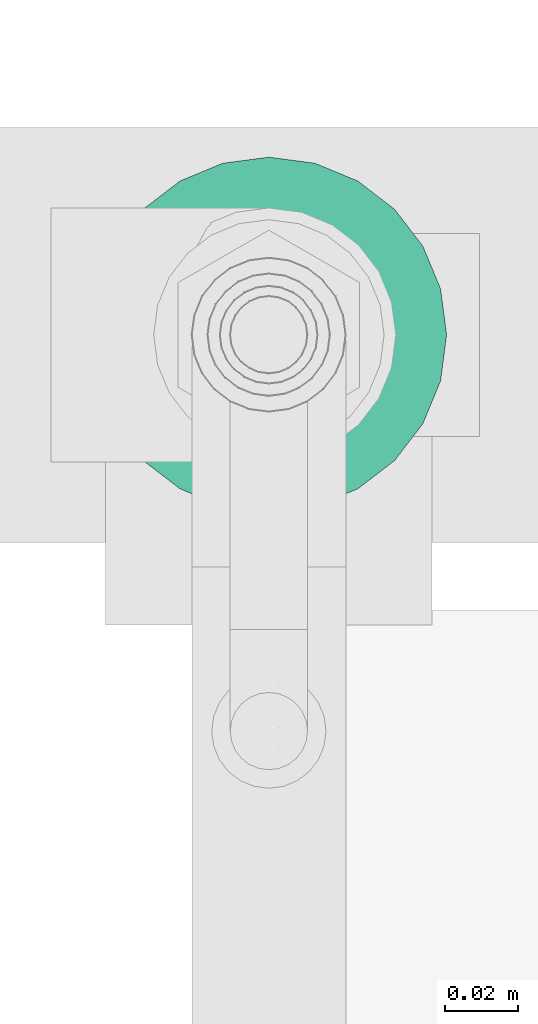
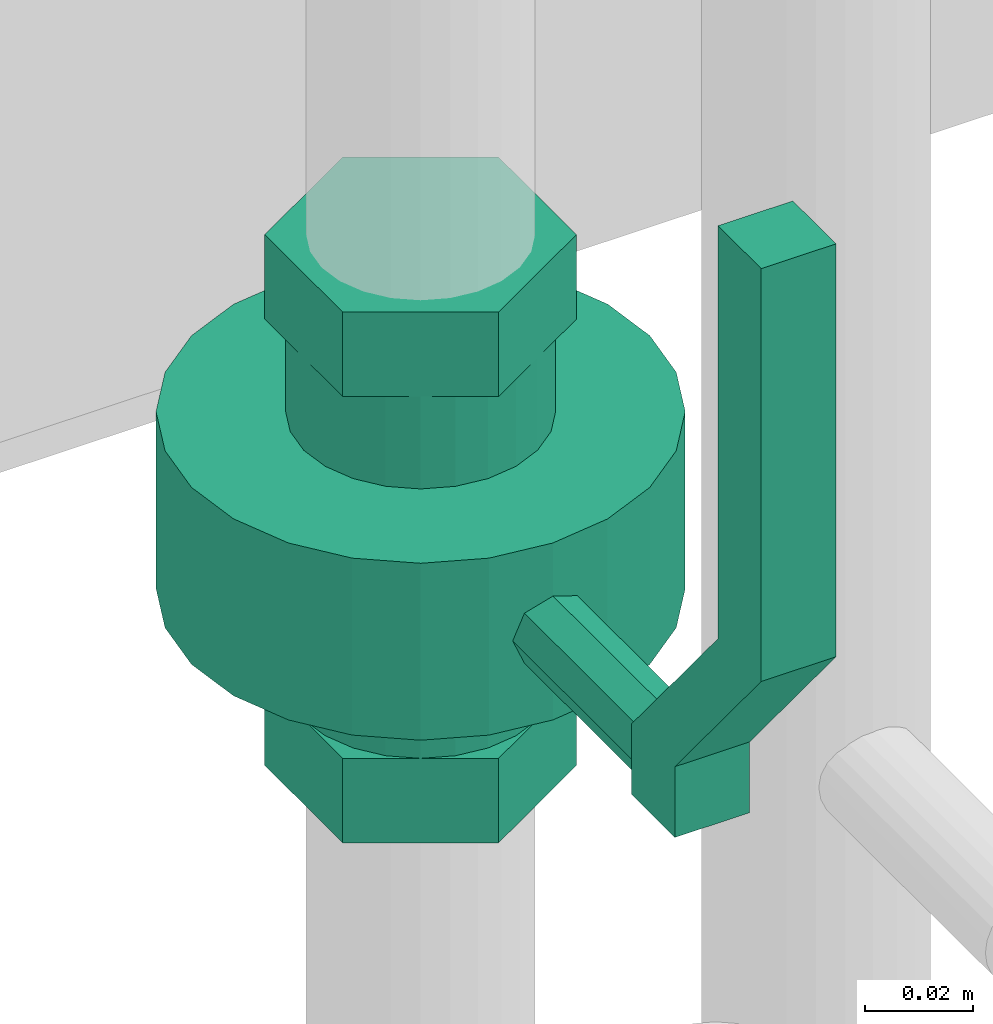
# One storey, part 265 of 374: 1 flow controller.
"""IFC2X3 building model written with IfcOpenShell, lengths in metres."""

from ifc_helpers import new_model, si_unit, direction, origin, place, context, subcontext, project, spatial, open_shell, surface_model, source, transform, mapped, element, save


model = new_model("IFC2X3")

# Units and contexts
model_context = context("Model", 3, precision=1e-05, world=origin(), true_north=direction((-0.4480736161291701, 0.8939966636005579)))
body_context = subcontext(model_context, "Body", "Model", "MODEL_VIEW")
ifc_project = project(units=[si_unit("LENGTHUNIT", "METRE"), si_unit("AREAUNIT", "SQUARE_METRE"), si_unit("VOLUMEUNIT", "CUBIC_METRE"), si_unit("PLANEANGLEUNIT", "RADIAN"), si_unit("THERMODYNAMICTEMPERATUREUNIT", "KELVIN"), si_unit("MASSUNIT", "GRAM", prefix="KILO"), si_unit("TIMEUNIT", "SECOND")], contexts=[model_context])

# Site, building, storey
site_placement = place(None, origin())
site = spatial("IfcSite", under=ifc_project, at=site_placement, Name="Site 1", CompositionType="ELEMENT")
building_placement = place(site_placement, origin())
building = spatial("IfcBuilding", under=site, at=building_placement, Name="Undefined", CompositionType="ELEMENT")
storey_placement = place(building_placement, origin())
storey = spatial("IfcBuildingStorey", under=building, at=storey_placement, Name="Rez de chauss\x8ee", CompositionType="ELEMENT", Elevation=0.0)

# Flow controller
shared_shape = source(origin(), body_context, "Body", "SurfaceModel", [
    surface_model("IfcFaceBasedSurfaceModel", [(0.0, 0.0, 0.0), (0.016000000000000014, 0.0, 0.0), (0.016000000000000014, 0.015999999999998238, 0.0), (0.0, 0.015999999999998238, 0.0), (0.016000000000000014, 0.0, 0.016000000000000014), (0.016000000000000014, 0.015999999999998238, 0.016000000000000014), (0.0, 0.0, 0.016000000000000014), (0.0, 0.015999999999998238, 0.016000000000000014), (-0.03866666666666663, 0.0, 0.04800000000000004), (-0.03866666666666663, 0.015999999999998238, 0.04800000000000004), (-0.1319999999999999, 0.0, 0.04800000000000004), (-0.1319999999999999, 0.015999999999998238, 0.04800000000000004), (-0.1319999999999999, 0.0, 0.03200000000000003), (-0.1319999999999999, 0.015999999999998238, 0.03200000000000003), (-0.03866666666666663, 0.0, 0.03200000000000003), (-0.03866666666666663, 0.015999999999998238, 0.03200000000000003), (0.06800000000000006, 0.03300000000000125, -0.10643375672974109), (0.06800000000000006, 0.03300000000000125, -0.07756624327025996), (0.0489, 0.03300000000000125, -0.07756624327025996), (0.0489, 0.03300000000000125, -0.10643375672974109), (0.06800000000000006, 0.007999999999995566, -0.12086751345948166), (0.0489, 0.007999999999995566, -0.12086751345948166), (0.06800000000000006, -0.017000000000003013, -0.10643375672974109), (0.0489, -0.017000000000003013, -0.10643375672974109), (0.06800000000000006, -0.017000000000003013, -0.07756624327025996), (0.0489, -0.017000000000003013, -0.07756624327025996), (0.06800000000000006, 0.007999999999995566, -0.06313248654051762), (0.0489, 0.007999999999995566, -0.06313248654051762), (0.0489, -0.017000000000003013, -0.09200000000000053), (0.0489, -0.016148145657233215, -0.08552952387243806), (0.028000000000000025, -0.016148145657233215, -0.08552952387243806), (0.028000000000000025, -0.017000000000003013, -0.09200000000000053), (0.0489, -0.0136506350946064, -0.07949999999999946), (0.028000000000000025, -0.0136506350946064, -0.07949999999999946), (0.0489, -0.009677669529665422, -0.07432233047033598), (0.028000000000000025, -0.009677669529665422, -0.07432233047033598), (0.0489, -0.0045000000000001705, -0.07034936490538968), (0.028000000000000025, -0.0045000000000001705, -0.07034936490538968), (0.0489, 0.0015295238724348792, -0.06785185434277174), (0.028000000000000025, 0.0015295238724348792, -0.06785185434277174), (0.0489, 0.007999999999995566, -0.06700000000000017), (0.028000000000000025, 0.007999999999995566, -0.06700000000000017), (0.0489, 0.014470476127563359, -0.06785185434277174), (0.028000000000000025, 0.014470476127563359, -0.06785185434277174), (0.0489, 0.02049999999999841, -0.07034936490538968), (0.028000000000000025, 0.02049999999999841, -0.07034936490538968), (0.0489, 0.02567766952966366, -0.07432233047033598), (0.028000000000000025, 0.02567766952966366, -0.07432233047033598), (0.0489, 0.029650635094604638, -0.07949999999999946), (0.028000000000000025, 0.029650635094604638, -0.07949999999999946), (0.0489, 0.03214814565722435, -0.08552952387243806), (0.028000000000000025, 0.03214814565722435, -0.08552952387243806), (0.0489, 0.03300000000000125, -0.09200000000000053), (0.028000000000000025, 0.03300000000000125, -0.09200000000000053), (0.0489, 0.03214814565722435, -0.09847047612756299), (0.028000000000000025, 0.03214814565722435, -0.09847047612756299), (0.0489, 0.029650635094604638, -0.10449999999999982), (0.028000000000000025, 0.029650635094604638, -0.10449999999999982), (0.0489, 0.02567766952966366, -0.10967766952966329), (0.028000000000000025, 0.02567766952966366, -0.10967766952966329), (0.0489, 0.02049999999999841, -0.11365063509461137), (0.028000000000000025, 0.02049999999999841, -0.11365063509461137), (0.0489, 0.014470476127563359, -0.11614814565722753), (0.028000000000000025, 0.014470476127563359, -0.11614814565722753), (0.0489, 0.007999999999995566, -0.1169999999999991), (0.028000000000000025, 0.007999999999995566, -0.1169999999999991), (0.0489, 0.0015295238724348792, -0.11614814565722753), (0.028000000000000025, 0.0015295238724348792, -0.11614814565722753), (0.0489, -0.0045000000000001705, -0.11365063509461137), (0.028000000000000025, -0.0045000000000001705, -0.11365063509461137), (0.0489, -0.009677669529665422, -0.10967766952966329), (0.028000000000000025, -0.009677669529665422, -0.10967766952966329), (0.0489, -0.0136506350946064, -0.10449999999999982), (0.028000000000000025, -0.0136506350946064, -0.10449999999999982), (0.0489, -0.016148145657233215, -0.09847047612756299), (0.028000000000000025, -0.016148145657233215, -0.09847047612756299), (0.028000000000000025, -0.04100000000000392, -0.09200000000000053), (0.028000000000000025, -0.03933036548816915, -0.07931786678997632), (-0.01200000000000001, -0.03933036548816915, -0.07931786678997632), (-0.01200000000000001, -0.04100000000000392, -0.09200000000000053), (0.028000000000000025, -0.03443524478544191, -0.067499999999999), (-0.01200000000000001, -0.03443524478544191, -0.067499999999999), (0.028000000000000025, -0.026648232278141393, -0.05735176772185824), (-0.01200000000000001, -0.026648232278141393, -0.05735176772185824), (0.028000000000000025, -0.016500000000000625, -0.049564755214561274), (-0.01200000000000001, -0.016500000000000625, -0.049564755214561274), (0.028000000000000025, -0.004682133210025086, -0.04466963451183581), (-0.01200000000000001, -0.004682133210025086, -0.04466963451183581), (0.028000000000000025, 0.007999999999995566, -0.04299999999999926), (-0.01200000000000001, 0.007999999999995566, -0.04299999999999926), (0.028000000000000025, 0.020682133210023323, -0.04466963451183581), (-0.01200000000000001, 0.020682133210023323, -0.04466963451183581), (0.028000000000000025, 0.03249999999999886, -0.049564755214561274), (-0.01200000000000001, 0.03249999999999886, -0.049564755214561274), (0.028000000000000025, 0.04264823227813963, -0.05735176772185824), (-0.01200000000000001, 0.04264823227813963, -0.05735176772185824), (0.028000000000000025, 0.05043524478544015, -0.067499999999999), (-0.01200000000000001, 0.05043524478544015, -0.067499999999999), (0.028000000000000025, 0.05533036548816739, -0.0793178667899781), (-0.01200000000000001, 0.05533036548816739, -0.0793178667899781), (0.028000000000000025, 0.05700000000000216, -0.09200000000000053), (-0.01200000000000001, 0.05700000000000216, -0.09200000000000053), (0.028000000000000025, 0.05533036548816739, -0.10468213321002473), (-0.01200000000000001, 0.05533036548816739, -0.10468213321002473), (0.028000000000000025, 0.05043524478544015, -0.11650000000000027), (-0.01200000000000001, 0.05043524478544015, -0.11650000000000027), (0.028000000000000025, 0.04264823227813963, -0.12664823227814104), (-0.01200000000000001, 0.04264823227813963, -0.12664823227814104), (0.028000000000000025, 0.03249999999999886, -0.134435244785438), (-0.01200000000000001, 0.03249999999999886, -0.134435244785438), (0.028000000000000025, 0.020682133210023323, -0.13933036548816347), (-0.01200000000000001, 0.020682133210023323, -0.13933036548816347), (0.028000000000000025, 0.007999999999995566, -0.14100000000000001), (-0.01200000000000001, 0.007999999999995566, -0.14100000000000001), (0.028000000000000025, -0.004682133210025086, -0.13933036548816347), (-0.01200000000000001, -0.004682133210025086, -0.13933036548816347), (0.028000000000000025, -0.016500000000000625, -0.134435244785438), (-0.01200000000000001, -0.016500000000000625, -0.134435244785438), (0.028000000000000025, -0.026648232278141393, -0.12664823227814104), (-0.01200000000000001, -0.026648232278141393, -0.12664823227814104), (0.028000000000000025, -0.03443524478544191, -0.11650000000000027), (-0.01200000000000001, -0.03443524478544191, -0.11650000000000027), (0.028000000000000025, -0.03933036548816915, -0.10468213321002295), (-0.01200000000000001, -0.03933036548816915, -0.10468213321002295), (0.028000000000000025, 0.007999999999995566, -0.09200000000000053), (-0.01200000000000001, 0.007999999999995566, -0.09200000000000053), (-0.01200000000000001, -0.017000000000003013, -0.09200000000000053), (-0.01200000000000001, -0.016148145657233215, -0.08552952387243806), (-0.03289999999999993, -0.016148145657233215, -0.08552952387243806), (-0.03289999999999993, -0.017000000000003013, -0.09200000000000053), (-0.01200000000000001, -0.0136506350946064, -0.07949999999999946), (-0.03289999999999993, -0.0136506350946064, -0.07949999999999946), (-0.01200000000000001, -0.009677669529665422, -0.07432233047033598), (-0.03289999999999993, -0.009677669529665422, -0.07432233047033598), (-0.01200000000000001, -0.0045000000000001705, -0.07034936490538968), (-0.03289999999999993, -0.0045000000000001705, -0.07034936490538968), (-0.01200000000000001, 0.0015295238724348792, -0.06785185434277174), (-0.03289999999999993, 0.0015295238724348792, -0.06785185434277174), (-0.01200000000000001, 0.007999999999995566, -0.06700000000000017), (-0.03289999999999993, 0.007999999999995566, -0.06700000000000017), (-0.01200000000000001, 0.014470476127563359, -0.06785185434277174), (-0.03289999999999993, 0.014470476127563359, -0.06785185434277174), (-0.01200000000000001, 0.02049999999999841, -0.07034936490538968), (-0.03289999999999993, 0.02049999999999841, -0.07034936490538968), (-0.01200000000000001, 0.02567766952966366, -0.07432233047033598), (-0.03289999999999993, 0.02567766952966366, -0.07432233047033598), (-0.01200000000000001, 0.029650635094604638, -0.07949999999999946), (-0.03289999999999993, 0.029650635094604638, -0.07949999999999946), (-0.01200000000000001, 0.03214814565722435, -0.08552952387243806), (-0.03289999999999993, 0.03214814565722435, -0.08552952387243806), (-0.01200000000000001, 0.03300000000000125, -0.09200000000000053), (-0.03289999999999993, 0.03300000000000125, -0.09200000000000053), (-0.01200000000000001, 0.03214814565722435, -0.09847047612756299), (-0.03289999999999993, 0.03214814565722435, -0.09847047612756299), (-0.01200000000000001, 0.029650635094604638, -0.10449999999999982), (-0.03289999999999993, 0.029650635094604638, -0.10449999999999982), (-0.01200000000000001, 0.02567766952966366, -0.10967766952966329), (-0.03289999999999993, 0.02567766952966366, -0.10967766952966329), (-0.01200000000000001, 0.02049999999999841, -0.11365063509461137), (-0.03289999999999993, 0.02049999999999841, -0.11365063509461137), (-0.01200000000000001, 0.014470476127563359, -0.11614814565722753), (-0.03289999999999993, 0.014470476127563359, -0.11614814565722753), (-0.01200000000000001, 0.007999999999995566, -0.1169999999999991), (-0.03289999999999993, 0.007999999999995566, -0.1169999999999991), (-0.01200000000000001, 0.0015295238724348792, -0.11614814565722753), (-0.03289999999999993, 0.0015295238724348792, -0.11614814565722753), (-0.01200000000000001, -0.0045000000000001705, -0.11365063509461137), (-0.03289999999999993, -0.0045000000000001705, -0.11365063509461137), (-0.01200000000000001, -0.009677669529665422, -0.10967766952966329), (-0.03289999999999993, -0.009677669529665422, -0.10967766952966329), (-0.01200000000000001, -0.0136506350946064, -0.10449999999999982), (-0.03289999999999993, -0.0136506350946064, -0.10449999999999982), (-0.01200000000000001, -0.016148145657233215, -0.09847047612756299), (-0.03289999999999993, -0.016148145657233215, -0.09847047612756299), (-0.03289999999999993, 0.03300000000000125, -0.10643375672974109), (-0.03289999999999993, 0.03300000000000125, -0.07756624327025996), (-0.051999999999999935, 0.03300000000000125, -0.07756624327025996), (-0.051999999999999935, 0.03300000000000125, -0.10643375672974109), (-0.03289999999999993, 0.007999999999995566, -0.12086751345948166), (-0.051999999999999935, 0.007999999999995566, -0.12086751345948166), (-0.03289999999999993, -0.017000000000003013, -0.10643375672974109), (-0.051999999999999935, -0.017000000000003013, -0.10643375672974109), (-0.03289999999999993, -0.017000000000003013, -0.07756624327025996), (-0.051999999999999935, -0.017000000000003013, -0.07756624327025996), (-0.03289999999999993, 0.007999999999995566, -0.06313248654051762), (-0.051999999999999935, 0.007999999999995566, -0.06313248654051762), (0.0, 0.007999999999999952, -0.09199999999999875), (0.002343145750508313, 0.0023431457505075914, -0.09199999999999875), (0.002343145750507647, 0.002343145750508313, 0.0), (0.0, 0.008, 0.0), (0.008000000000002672, 0.0, -0.09199999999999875), (0.008000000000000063, 0.0, 0.0), (0.01365685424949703, 0.0023431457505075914, -0.09199999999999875), (0.013656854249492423, 0.002343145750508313, 0.0), (0.016000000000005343, 0.007999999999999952, -0.09199999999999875), (0.016000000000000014, 0.008000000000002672, 0.0), (0.01365685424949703, 0.013656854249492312, -0.09199999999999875), (0.013656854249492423, 0.013656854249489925, 0.0), (0.008000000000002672, 0.01599999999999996, -0.09199999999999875), (0.008000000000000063, 0.015999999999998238, 0.0), (0.002343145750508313, 0.013656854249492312, -0.09199999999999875), (0.002343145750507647, 0.013656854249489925, 0.0)], [open_shell([[[0, 1, 2, 3]], [[1, 4, 5, 2]], [[4, 6, 7, 5]], [[6, 8, 9, 7]], [[8, 10, 11, 9]], [[10, 12, 13, 11]], [[12, 14, 15, 13]], [[14, 0, 3, 15]], [[3, 7, 2]], [[7, 3, 9]], [[15, 9, 3]], [[9, 15, 11]], [[13, 11, 15]], [[5, 2, 7]], [[1, 6, 0]], [[8, 0, 6]], [[0, 8, 14]], [[10, 14, 8]], [[14, 10, 12]], [[6, 1, 4]], [[16, 17, 18, 19]], [[20, 16, 19, 21]], [[22, 20, 21, 23]], [[24, 22, 23, 25]], [[26, 24, 25, 27]], [[17, 26, 27, 18]], [[17, 16, 20]], [[17, 20, 22]], [[17, 22, 24]], [[17, 24, 26]], [[18, 21, 19]], [[18, 23, 21]], [[18, 25, 23]], [[18, 27, 25]], [[28, 29, 30, 31]], [[29, 32, 33, 30]], [[32, 34, 35, 33]], [[34, 36, 37, 35]], [[36, 38, 39, 37]], [[38, 40, 41, 39]], [[40, 42, 43, 41]], [[42, 44, 45, 43]], [[44, 46, 47, 45]], [[46, 48, 49, 47]], [[48, 50, 51, 49]], [[50, 52, 53, 51]], [[52, 54, 55, 53]], [[54, 56, 57, 55]], [[56, 58, 59, 57]], [[58, 60, 61, 59]], [[60, 62, 63, 61]], [[62, 64, 65, 63]], [[64, 66, 67, 65]], [[66, 68, 69, 67]], [[68, 70, 71, 69]], [[70, 72, 73, 71]], [[72, 74, 75, 73]], [[74, 28, 31, 75]], [[76, 77, 78, 79]], [[77, 80, 81, 78]], [[80, 82, 83, 81]], [[82, 84, 85, 83]], [[84, 86, 87, 85]], [[86, 88, 89, 87]], [[88, 90, 91, 89]], [[90, 92, 93, 91]], [[92, 94, 95, 93]], [[94, 96, 97, 95]], [[96, 98, 99, 97]], [[98, 100, 101, 99]], [[100, 102, 103, 101]], [[102, 104, 105, 103]], [[104, 106, 107, 105]], [[106, 108, 109, 107]], [[108, 110, 111, 109]], [[110, 112, 113, 111]], [[112, 114, 115, 113]], [[114, 116, 117, 115]], [[116, 118, 119, 117]], [[118, 120, 121, 119]], [[120, 122, 123, 121]], [[122, 76, 79, 123]], [[124, 77, 76]], [[124, 80, 77]], [[124, 82, 80]], [[124, 84, 82]], [[124, 86, 84]], [[124, 88, 86]], [[124, 90, 88]], [[124, 92, 90]], [[124, 94, 92]], [[124, 96, 94]], [[124, 98, 96]], [[124, 100, 98]], [[124, 102, 100]], [[124, 104, 102]], [[124, 106, 104]], [[124, 108, 106]], [[124, 110, 108]], [[124, 112, 110]], [[124, 114, 112]], [[124, 116, 114]], [[124, 118, 116]], [[124, 120, 118]], [[124, 122, 120]], [[124, 76, 122]], [[125, 123, 79]], [[125, 121, 123]], [[125, 119, 121]], [[125, 117, 119]], [[125, 115, 117]], [[125, 113, 115]], [[125, 111, 113]], [[125, 109, 111]], [[125, 107, 109]], [[125, 105, 107]], [[125, 103, 105]], [[125, 101, 103]], [[125, 99, 101]], [[125, 97, 99]], [[125, 95, 97]], [[125, 93, 95]], [[125, 91, 93]], [[125, 89, 91]], [[125, 87, 89]], [[125, 85, 87]], [[125, 83, 85]], [[125, 81, 83]], [[125, 78, 81]], [[125, 79, 78]], [[126, 127, 128, 129]], [[127, 130, 131, 128]], [[130, 132, 133, 131]], [[132, 134, 135, 133]], [[134, 136, 137, 135]], [[136, 138, 139, 137]], [[138, 140, 141, 139]], [[140, 142, 143, 141]], [[142, 144, 145, 143]], [[144, 146, 147, 145]], [[146, 148, 149, 147]], [[148, 150, 151, 149]], [[150, 152, 153, 151]], [[152, 154, 155, 153]], [[154, 156, 157, 155]], [[156, 158, 159, 157]], [[158, 160, 161, 159]], [[160, 162, 163, 161]], [[162, 164, 165, 163]], [[164, 166, 167, 165]], [[166, 168, 169, 167]], [[168, 170, 171, 169]], [[170, 172, 173, 171]], [[172, 126, 129, 173]], [[174, 175, 176, 177]], [[178, 174, 177, 179]], [[180, 178, 179, 181]], [[182, 180, 181, 183]], [[184, 182, 183, 185]], [[175, 184, 185, 176]], [[175, 174, 178]], [[175, 178, 180]], [[175, 180, 182]], [[175, 182, 184]], [[176, 179, 177]], [[176, 181, 179]], [[176, 183, 181]], [[176, 185, 183]], [[186, 187, 188, 189]], [[187, 190, 191, 188]], [[190, 192, 193, 191]], [[192, 194, 195, 193]], [[194, 196, 197, 195]], [[196, 198, 199, 197]], [[198, 200, 201, 199]], [[200, 186, 189, 201]]])]),
])
flow_controller_placement = place(storey_placement, origin())
element("IfcFlowController", 1, at=flow_controller_placement, inside=storey, Name="Robinet à boisseau sphérique", ObjectType="Robinet à boisseau sphérique", context=body_context, shape_type="MappedRepresentation", body=[
    mapped(shared_shape, transform((53.649562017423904, 10.626037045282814, 1.713989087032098), x_axis=(0.0, 0.0, -1.0), y_axis=(1.0, 0.0, 0.0), z_axis=(0.0, -1.0, 0.0))),
])

save(model, "model.ifc")
